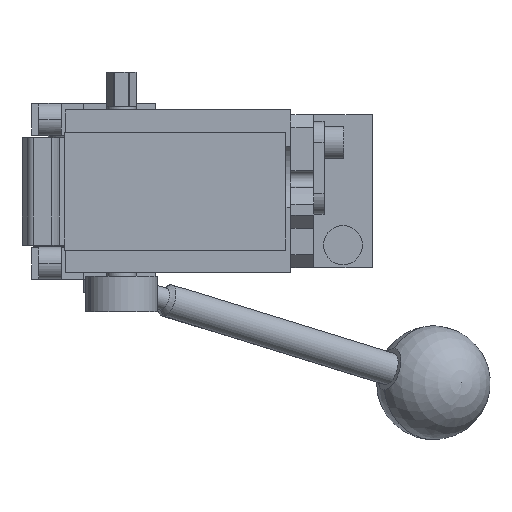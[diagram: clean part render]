
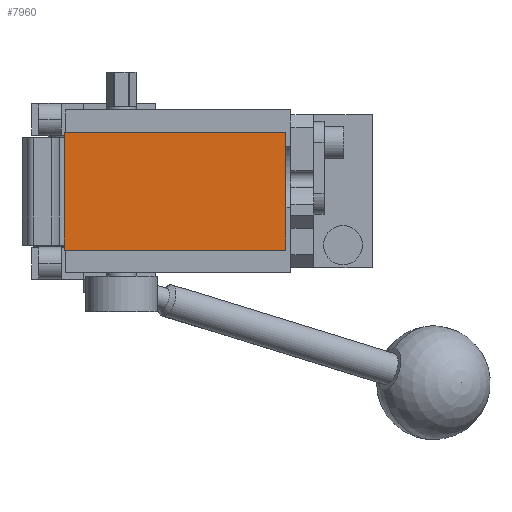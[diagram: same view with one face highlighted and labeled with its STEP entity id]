
A CAD part, front view. The second image highlights one B-rep face of the part: STEP entity #7960.
In plain terms, the highlighted planar face has unit normal (0, -1, 0).
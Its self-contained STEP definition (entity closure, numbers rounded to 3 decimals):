
#982 = EDGE_LOOP ( 'NONE', ( #15472, #9589, #9092, #12423 ) ) ;
#1185 = CARTESIAN_POINT ( 'NONE',  ( -6., -233., 18. ) ) ;
#1823 = DIRECTION ( 'NONE',  ( 0., 0., -1. ) ) ;
#2153 = VERTEX_POINT ( 'NONE', #6917 ) ;
#2340 = LINE ( 'NONE', #1185, #13424 ) ;
#3326 = AXIS2_PLACEMENT_3D ( 'NONE', #9424, #8163, #1823 ) ;
#3361 = DIRECTION ( 'NONE',  ( 0., 0., 1. ) ) ;
#3401 = LINE ( 'NONE', #8502, #10787 ) ;
#3436 = CARTESIAN_POINT ( 'NONE',  ( 62., -233., 18. ) ) ;
#5444 = EDGE_CURVE ( 'NONE', #9610, #14188, #14512, .T. ) ;
#6917 = CARTESIAN_POINT ( 'NONE',  ( -6., -233., 18. ) ) ;
#7936 = CARTESIAN_POINT ( 'NONE',  ( 62., -233., 18. ) ) ;
#7960 = ADVANCED_FACE ( 'NONE', ( #11694 ), #15537, .T. ) ;
#8115 = EDGE_CURVE ( 'NONE', #2153, #9610, #3401, .T. ) ;
#8163 = DIRECTION ( 'NONE',  ( 0., -1., 0. ) ) ;
#8502 = CARTESIAN_POINT ( 'NONE',  ( -6., -233., 18. ) ) ;
#9092 = ORIENTED_EDGE ( 'NONE', *, *, #15981, .T. ) ;
#9241 = CARTESIAN_POINT ( 'NONE',  ( -6., -233., -18. ) ) ;
#9424 = CARTESIAN_POINT ( 'NONE',  ( 0., -233., 0. ) ) ;
#9570 = DIRECTION ( 'NONE',  ( 1., 0., 0. ) ) ;
#9589 = ORIENTED_EDGE ( 'NONE', *, *, #5444, .T. ) ;
#9610 = VERTEX_POINT ( 'NONE', #15626 ) ;
#9716 = LINE ( 'NONE', #3436, #13335 ) ;
#9828 = EDGE_CURVE ( 'NONE', #13686, #2153, #2340, .T. ) ;
#10517 = VECTOR ( 'NONE', #9570, 1000. ) ;
#10787 = VECTOR ( 'NONE', #13601, 1000. ) ;
#11606 = DIRECTION ( 'NONE',  ( -1., 0., 0. ) ) ;
#11694 = FACE_OUTER_BOUND ( 'NONE', #982, .T. ) ;
#12423 = ORIENTED_EDGE ( 'NONE', *, *, #9828, .T. ) ;
#12871 = CARTESIAN_POINT ( 'NONE',  ( 62., -233., -18. ) ) ;
#13335 = VECTOR ( 'NONE', #3361, 1000. ) ;
#13424 = VECTOR ( 'NONE', #11606, 1000. ) ;
#13601 = DIRECTION ( 'NONE',  ( 0., 0., -1. ) ) ;
#13686 = VERTEX_POINT ( 'NONE', #7936 ) ;
#14188 = VERTEX_POINT ( 'NONE', #12871 ) ;
#14512 = LINE ( 'NONE', #9241, #10517 ) ;
#15472 = ORIENTED_EDGE ( 'NONE', *, *, #8115, .T. ) ;
#15537 = PLANE ( 'NONE',  #3326 ) ;
#15626 = CARTESIAN_POINT ( 'NONE',  ( -6., -233., -18. ) ) ;
#15981 = EDGE_CURVE ( 'NONE', #14188, #13686, #9716, .T. ) ;
